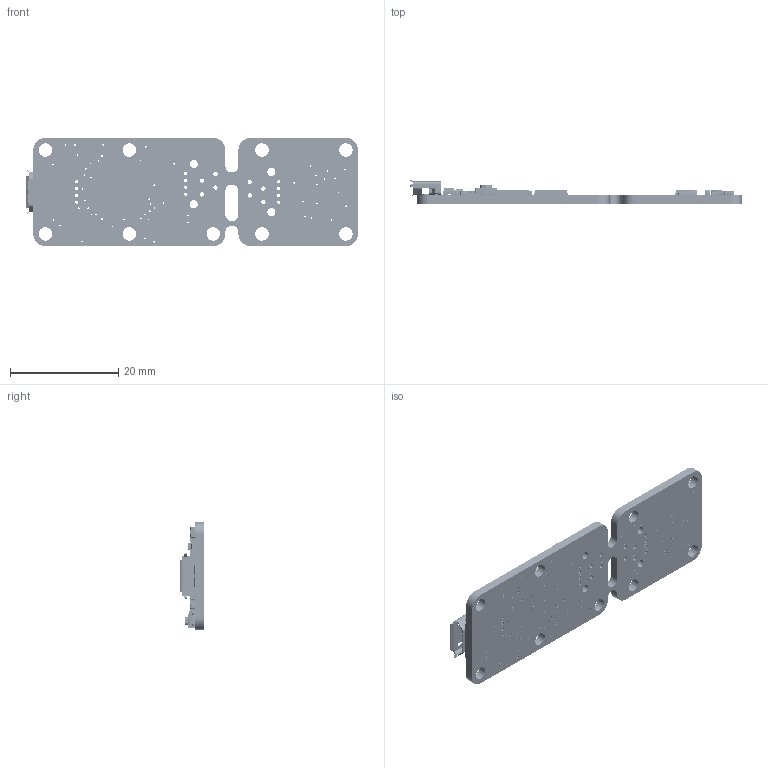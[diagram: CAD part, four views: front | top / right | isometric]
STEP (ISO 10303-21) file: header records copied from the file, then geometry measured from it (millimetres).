
FILE_DESCRIPTION (( 'STEP AP214' ), '1' );
FILE_NAME ('SPECTRL1.STEP', '2025-01-21T17:08:12', ( '' ), ( '' ), 'SwSTEP 2.0', 'SolidWorks 2008', '' );
FILE_SCHEMA (( 'AUTOMOTIVE_DESIGN' ));
Length unit declared in the file: millimetre
Products named in the file (35): CPU1; C7; C13; C1; C14; C16; C18; C19; C33; C2; PCB; YBUTTON; T1; R7; R13; U2; sensor1; D2; SPECTRL1; R12; REG2; REG1; PVSS; R6; YLED; sens1; R4; FLASH1; R1; R10; R3; USB1; R2; R9; R14
Assembly tree (47 placements, depth 2):
  SPECTRL1
    sensor1
    C14
    C33  x11
    R9
    USB1
    R1
    R10
    R12
    R13  x3
    YBUTTON
    C2
    D2  x2
    YLED
    C7
    R4
    R14
    PCB
    C13  x2
    CPU1
    C18
    U2
    sens1
    FLASH1
    C16
    R3
    C1
    REG1
    C19
    T1
    R2
    R6
    REG2
    R7
  PVSS
Bounding box: 61.35 x 4.46 x 20 mm (x, y, z)
Volume: 1964.5 mm3; surface area: 3833.4 mm2
Topology: 59 solids, 59 shells, 7400 faces, 19085 edges, 12346 vertices
Faces by surface type: plane 4540, cylinder 1896, bspline 789, sphere 160, cone 8, torus 7
Entity records: 309819 total; most frequent: CARTESIAN_POINT 80917, ORIENTED_EDGE 34680, DIRECTION 31116, EDGE_CURVE 17340, LINE 12374, VECTOR 12374, VERTEX_POINT 11427, AXIS2_PLACEMENT_3D 9371
